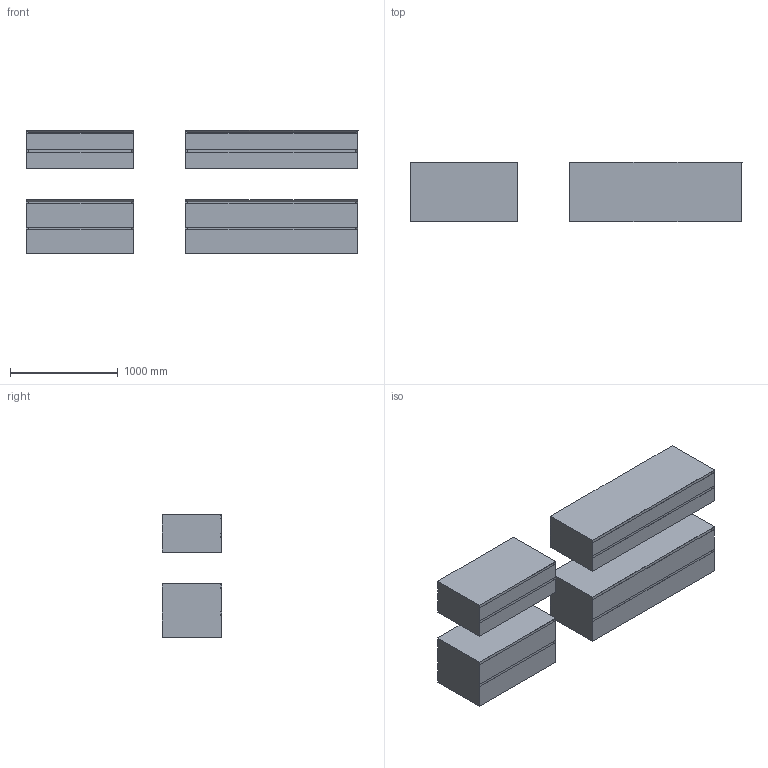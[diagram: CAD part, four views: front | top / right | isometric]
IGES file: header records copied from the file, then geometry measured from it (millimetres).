
Global section: file name: \\Archi-NAS\Comune\X GIOVANNI\MOBILI\EVOLINE\EVOLINE_7.igs; native system: Rhinoceros ( Feb 23 2021 ); preprocessor: Trout Lake IGES 012 Feb 23 2021; date: 230607.150025; units: millimetre
Bounding box: 3074.17 x 550 x 1143.94 mm (x, y, z)
Surface area: 38894438 mm2 (no closed solid volume)
Topology: 0 solids, 0 shells, 544 faces, 3448 edges, 3448 vertices
Faces by surface type: bspline 544
